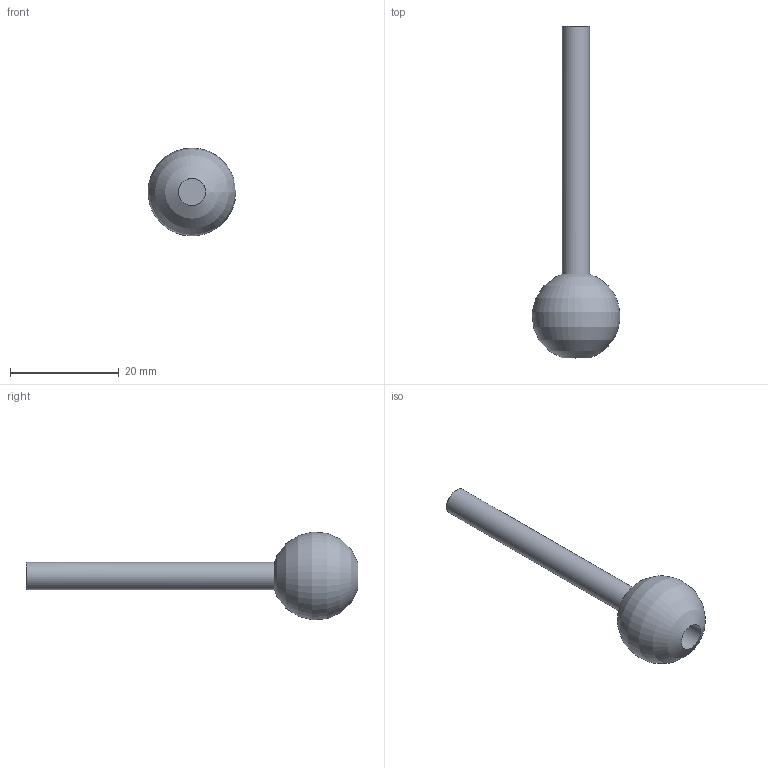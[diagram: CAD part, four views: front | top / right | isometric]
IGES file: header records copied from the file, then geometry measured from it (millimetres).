
Global section: file name: Filename.iges; native system: Open CASCADE 6.8; preprocessor: Open CASCADE IGES processor 6.8; date: 20170130.075632; units: millimetre
Bounding box: 16.12 x 61 x 16.13 mm (x, y, z)
Surface area: 1649.6 mm2 (no closed solid volume)
Topology: 0 solids, 0 shells, 5 faces, 14 edges, 8 vertices
Faces by surface type: revolution 3, plane 2
